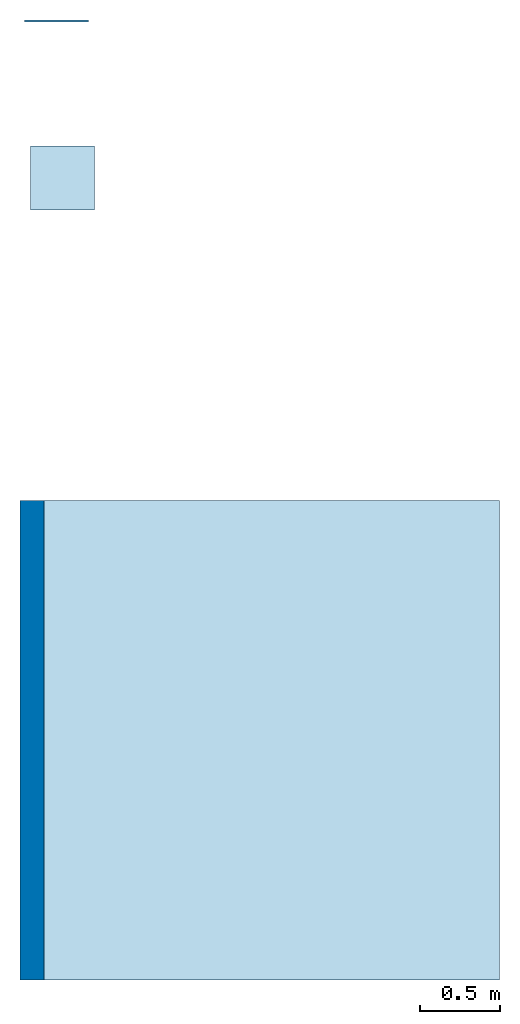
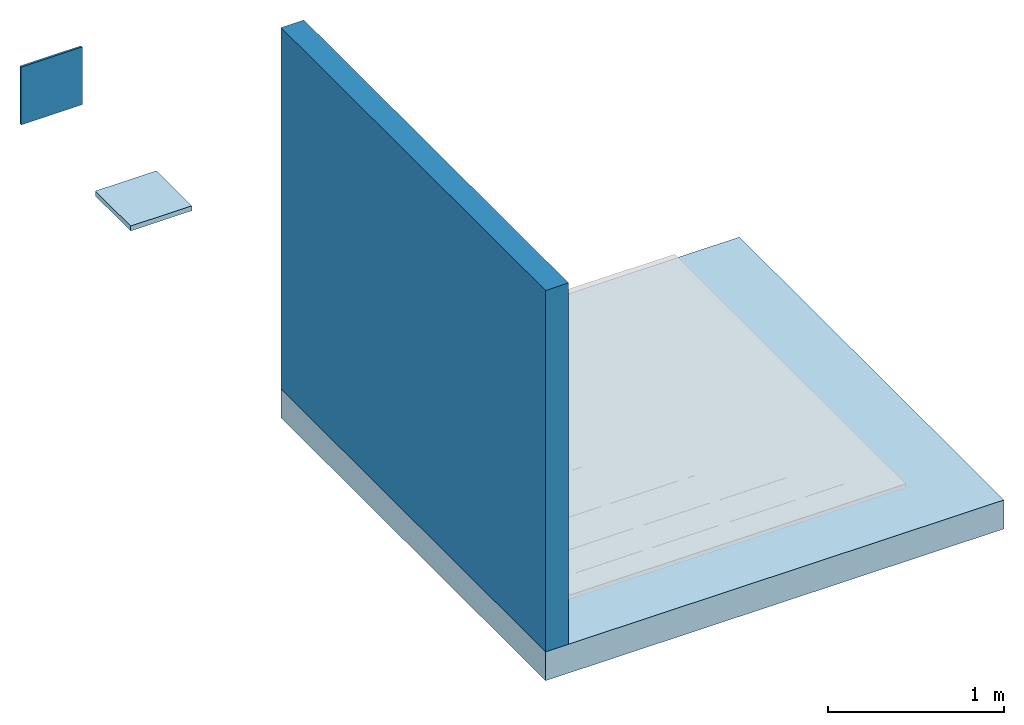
# One storey, part 1 of 2: 2 slabs, 2 walls.
"""IFC2X3 building model written with IfcOpenShell, lengths in metres."""

from ifc_helpers import new_model, entity, si_unit, converted_unit, derived_unit, direction, frame, frame_2d, origin, origin_2d_with_axis, place, context, subcontext, project, spatial, rectangle, extrude, material, layer, layer_set, layer_usage, type_object, element, save


model = new_model("IFC2X3")

# Units and contexts
model_context = context("Model", 3, precision=1e-05, world=origin(), true_north=direction((6.123031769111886e-17, 1.0)))
body_context = subcontext(model_context, "Body", "Model", "MODEL_VIEW")
ifc_project = project(units=[si_unit("LENGTHUNIT", "METRE"), si_unit("AREAUNIT", "SQUARE_METRE"), si_unit("VOLUMEUNIT", "CUBIC_METRE"), converted_unit("PLANEANGLEUNIT", "DEGREE", entity("IfcRatioMeasure", 0.017453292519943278), si_unit("PLANEANGLEUNIT", "RADIAN"), dimensions=[0, 0, 0, 0, 0, 0, 0]), si_unit("MASSUNIT", "GRAM", prefix="KILO"), derived_unit("MASSDENSITYUNIT", [(si_unit("MASSUNIT", "GRAM", prefix="KILO"), 1), (si_unit("LENGTHUNIT", "METRE"), -3)]), derived_unit("IONCONCENTRATIONUNIT", [(si_unit("MASSUNIT", "GRAM", prefix="KILO"), 1), (si_unit("LENGTHUNIT", "METRE"), -3)]), derived_unit("MOMENTOFINERTIAUNIT", [(si_unit("LENGTHUNIT", "METRE"), 4)]), si_unit("TIMEUNIT", "SECOND"), si_unit("FREQUENCYUNIT", "HERTZ"), si_unit("THERMODYNAMICTEMPERATUREUNIT", "DEGREE_CELSIUS"), derived_unit("THERMALTRANSMITTANCEUNIT", [(si_unit("MASSUNIT", "GRAM", prefix="KILO"), 1), (si_unit("THERMODYNAMICTEMPERATUREUNIT", "KELVIN"), -1), (si_unit("TIMEUNIT", "SECOND"), -3)]), derived_unit("THERMALCONDUCTANCEUNIT", [(si_unit("MASSUNIT", "GRAM", prefix="KILO"), 1), (si_unit("THERMODYNAMICTEMPERATUREUNIT", "KELVIN"), -1), (si_unit("TIMEUNIT", "SECOND"), -3), (si_unit("LENGTHUNIT", "METRE"), 1)]), derived_unit("VOLUMETRICFLOWRATEUNIT", [(si_unit("LENGTHUNIT", "METRE"), 3), (si_unit("TIMEUNIT", "SECOND"), -1)]), derived_unit("MASSFLOWRATEUNIT", [(si_unit("MASSUNIT", "GRAM", prefix="KILO"), 1), (si_unit("TIMEUNIT", "SECOND"), -1)]), derived_unit("ROTATIONALFREQUENCYUNIT", [(si_unit("TIMEUNIT", "SECOND"), -1)]), si_unit("ELECTRICCURRENTUNIT", "AMPERE"), si_unit("ELECTRICVOLTAGEUNIT", "VOLT"), si_unit("POWERUNIT", "WATT"), si_unit("FORCEUNIT", "NEWTON", prefix="KILO"), si_unit("ILLUMINANCEUNIT", "LUX"), si_unit("LUMINOUSFLUXUNIT", "LUMEN"), si_unit("LUMINOUSINTENSITYUNIT", "CANDELA"), derived_unit("USERDEFINED", [(si_unit("MASSUNIT", "GRAM", prefix="KILO"), -1), (si_unit("LENGTHUNIT", "METRE"), -2), (si_unit("TIMEUNIT", "SECOND"), 3), (si_unit("LUMINOUSFLUXUNIT", "LUMEN"), 1)]), derived_unit("USERDEFINED", [(si_unit("MASSUNIT", "GRAM", prefix="KILO"), 1), (si_unit("TIMEUNIT", "SECOND"), -3), (si_unit("LENGTHUNIT", "METRE"), 3), (si_unit("ELECTRICCURRENTUNIT", "AMPERE"), -2)]), derived_unit("SOUNDPOWERUNIT", [(si_unit("MASSUNIT", "GRAM", prefix="KILO"), 1), (si_unit("TIMEUNIT", "SECOND"), -3), (si_unit("LENGTHUNIT", "METRE"), 2)]), derived_unit("SOUNDPRESSUREUNIT", [(si_unit("MASSUNIT", "GRAM", prefix="KILO"), 1), (si_unit("LENGTHUNIT", "METRE"), -1), (si_unit("TIMEUNIT", "SECOND"), -2)]), derived_unit("LINEARVELOCITYUNIT", [(si_unit("LENGTHUNIT", "METRE"), 1), (si_unit("TIMEUNIT", "SECOND"), -1)]), si_unit("PRESSUREUNIT", "PASCAL"), derived_unit("USERDEFINED", [(si_unit("MASSUNIT", "GRAM", prefix="KILO"), 1), (si_unit("LENGTHUNIT", "METRE"), -2), (si_unit("TIMEUNIT", "SECOND"), -2)]), derived_unit("LINEARFORCEUNIT", [(si_unit("MASSUNIT", "GRAM", prefix="KILO"), 1), (si_unit("TIMEUNIT", "SECOND"), -2)]), derived_unit("PLANARFORCEUNIT", [(si_unit("MASSUNIT", "GRAM", prefix="KILO"), 1), (si_unit("LENGTHUNIT", "METRE"), -1), (si_unit("TIMEUNIT", "SECOND"), -2)]), derived_unit("SPECIFICHEATCAPACITYUNIT", [(si_unit("THERMODYNAMICTEMPERATUREUNIT", "KELVIN"), -1), (si_unit("LENGTHUNIT", "METRE"), 2), (si_unit("TIMEUNIT", "SECOND"), -2)]), derived_unit("HEATINGVALUEUNIT", [(si_unit("LENGTHUNIT", "METRE"), 2), (si_unit("TIMEUNIT", "SECOND"), -2)]), derived_unit("VAPORPERMEABILITYUNIT", [(si_unit("LENGTHUNIT", "METRE"), -1), (si_unit("TIMEUNIT", "SECOND"), 1)]), derived_unit("DYNAMICVISCOSITYUNIT", [(si_unit("MASSUNIT", "GRAM", prefix="KILO"), 1), (si_unit("TIMEUNIT", "SECOND"), -1), (si_unit("LENGTHUNIT", "METRE"), -1)]), derived_unit("THERMALEXPANSIONCOEFFICIENTUNIT", [(si_unit("THERMODYNAMICTEMPERATUREUNIT", "KELVIN"), -1)]), derived_unit("MODULUSOFELASTICITYUNIT", [(si_unit("MASSUNIT", "GRAM", prefix="KILO"), 1), (si_unit("LENGTHUNIT", "METRE"), -1), (si_unit("TIMEUNIT", "SECOND"), -2)]), derived_unit("ISOTHERMALMOISTURECAPACITYUNIT", [(si_unit("LENGTHUNIT", "METRE"), 3), (si_unit("MASSUNIT", "GRAM", prefix="KILO"), -1)]), derived_unit("MOISTUREDIFFUSIVITYUNIT", [(si_unit("TIMEUNIT", "SECOND"), -1), (si_unit("LENGTHUNIT", "METRE"), 2)])], contexts=[model_context])

# Site, building, storey
site_placement = place(None, origin())
site = spatial("IfcSite", under=ifc_project, at=site_placement, Name="Default", CompositionType="ELEMENT")
building_placement = place(site_placement, origin())
building = spatial("IfcBuilding", under=site, at=building_placement, CompositionType="ELEMENT")
storey_placement = place(building_placement, frame((0.0, 0.0, -0.0025237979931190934)))
storey = spatial("IfcBuildingStorey", under=building, at=storey_placement, Name="ARQ Térreo", CompositionType="ELEMENT", Elevation=-0.0025237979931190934)

# Slabs
ifc_material_1 = material(Name="#concreto")
ifc_layer_1 = layer(ifc_material_1, 0.2)
ifc_layer_set_1 = layer_set([ifc_layer_1], Name="Piso:Piso:LAJE CONCRETO")
ifc_layer_usage_1 = layer_usage(ifc_layer_set_1, "AXIS3", "POSITIVE", 0.0)
slab_type_1 = type_object("IfcSlabType", Name="Piso:Piso:LAJE CONCRETO", PredefinedType="FLOOR", material=ifc_layer_set_1)
slab_1_placement = place(storey_placement, origin())
element("IfcSlab", 1, at=slab_1_placement, inside=storey, type_object=slab_type_1, material=ifc_layer_usage_1, Name="Piso:Piso:LAJE CONCRETO", ObjectType="Piso:Piso:LAJE CONCRETO", PredefinedType="FLOOR", context=body_context, shape_type="SweptSolid", body=[
    extrude(rectangle(XDim=3.0000000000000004, YDim=3.0000000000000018, at=origin_2d_with_axis()), frame((0.9980295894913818, -1.354129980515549, 0.0), z_axis=(0.0, 0.0, -1.0), x_axis=(0.0, 1.0, 0.0)), (0.0, 0.0, 1.0), 0.2),
])
ifc_material_2 = material(Name="#Vulkem 346")
ifc_layer_2 = layer(ifc_material_2, 0.0009999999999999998)
ifc_material_3 = material(Name="#Vulkem 345")
ifc_layer_3 = layer(ifc_material_3, 0.0009999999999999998)
ifc_material_4 = material(Name="#Vulkem 350NF")
ifc_layer_4 = layer(ifc_material_4, 0.0009999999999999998)
ifc_material_5 = material(Name="#Vulkem 171 Primer")
ifc_layer_5 = layer(ifc_material_5, 0.0009999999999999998)
ifc_material_6 = material(Name="#argamassa")
ifc_layer_6 = layer(ifc_material_6, 0.03)
ifc_layer_set_2 = layer_set([ifc_layer_2, ifc_layer_3, ifc_layer_4, ifc_layer_5, ifc_layer_6], Name="Piso:IMPH_VLK ruas")
ifc_layer_usage_2 = layer_usage(ifc_layer_set_2, "AXIS3", "POSITIVE", 0.0)
slab_type_2 = type_object("IfcSlabType", Name="Piso:IMPH_VLK ruas", PredefinedType="FLOOR", material=ifc_layer_set_2)
slab_2_placement = place(storey_placement, origin())
element("IfcSlab", 2, at=slab_2_placement, inside=storey, type_object=slab_type_2, material=ifc_layer_usage_2, Name="Piso:IMPH_VLK ruas", ObjectType="Piso:IMPH_VLK ruas", PredefinedType="FLOOR", context=body_context, shape_type="SweptSolid", body=[
    extrude(rectangle(XDim=0.4, YDim=0.4000000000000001, at=frame_2d((0.0, -2.7755575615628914e-17), x_axis=(1.0, 0.0))), frame((-0.2354845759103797, 2.1653220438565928, 0.0), z_axis=(0.0, 0.0, -1.0), x_axis=(0.0, 1.0, 0.0)), (0.0, 0.0, 1.0), 0.034),
])

# Walls
ifc_layer_7 = layer(ifc_material_1, 0.14999999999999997)
ifc_layer_set_3 = layer_set([ifc_layer_7], Name="Parede básica:Parede básica:Parede Concreto")
ifc_layer_usage_3 = layer_usage(ifc_layer_set_3, "AXIS2", "NEGATIVE", 0.07499999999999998)
wall_type_1 = type_object("IfcWallType", Name="Parede básica:Parede básica:Parede Concreto", PredefinedType="STANDARD", material=ifc_layer_set_3)
wall_1_placement = place(storey_placement, frame((-0.4269704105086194, 0.14587001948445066, 0.0), z_axis=(0.0, 0.0, 1.0), x_axis=(0.0, -1.0, 0.0)))
element("IfcWallStandardCase", 3, at=wall_1_placement, inside=storey, type_object=wall_type_1, material=ifc_layer_usage_3, Name="Parede básica:Parede Concreto", ObjectType="Parede básica:Parede Concreto", context=body_context, shape_type="SweptSolid", body=[
    extrude(rectangle(XDim=2.9999999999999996, YDim=0.15000000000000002, at=frame_2d((1.4999999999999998, 0.0), x_axis=(-1.0, 0.0))), origin(), (0.0, 0.0, 1.0), 2.4999999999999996),
])
ifc_layer_8 = layer(ifc_material_2, 0.0009999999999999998)
ifc_layer_9 = layer(ifc_material_3, 0.0009999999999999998)
ifc_layer_10 = layer(ifc_material_4, 0.0009999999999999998)
ifc_layer_11 = layer(ifc_material_5, 0.0009999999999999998)
ifc_layer_12 = layer(ifc_material_6, 0.01)
ifc_layer_set_4 = layer_set([ifc_layer_8, ifc_layer_9, ifc_layer_10, ifc_layer_11, ifc_layer_12], Name="Parede básica:IMPV_VLK ruas")
ifc_layer_usage_4 = layer_usage(ifc_layer_set_4, "AXIS2", "NEGATIVE", 0.007)
wall_type_2 = type_object("IfcWallType", Name="Parede básica:IMPV_VLK ruas", PredefinedType="STANDARD", material=ifc_layer_set_4)
wall_2_placement = place(storey_placement, frame((-0.0728155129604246, 3.147971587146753, 0.0), z_axis=(0.0, 0.0, 1.0), x_axis=(-1.0, 0.0, 0.0)))
element("IfcWallStandardCase", 4, at=wall_2_placement, inside=storey, type_object=wall_type_2, material=ifc_layer_usage_4, Name="Parede básica:IMPV_VPECO", ObjectType="Parede básica:IMPV_VPECO", context=body_context, shape_type="SweptSolid", body=[
    extrude(rectangle(XDim=0.4, YDim=0.014000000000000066, at=frame_2d((0.2, -1.2533377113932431e-16), x_axis=(-1.0, 0.0))), origin(), (0.0, 0.0, 1.0), 0.4),
])

save(model, "model.ifc")
